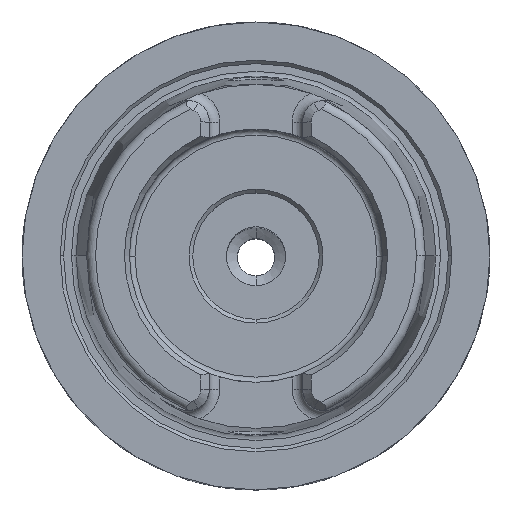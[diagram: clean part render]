
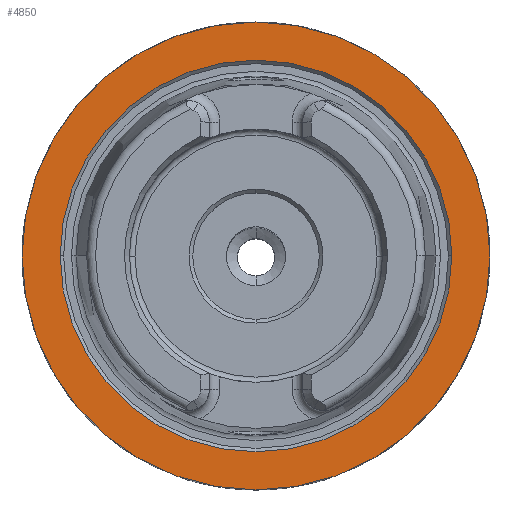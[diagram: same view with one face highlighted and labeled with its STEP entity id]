
A CAD part, top view. The second image highlights one B-rep face of the part: STEP entity #4850.
In plain terms, the highlighted planar face has unit normal (0, 0, 1).
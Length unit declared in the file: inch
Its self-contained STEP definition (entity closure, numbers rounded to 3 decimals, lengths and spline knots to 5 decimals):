
#285 = AXIS2_PLACEMENT_3D ( 'NONE', #7318, #2301, #8051 ) ;
#378 = CARTESIAN_POINT ( 'NONE',  ( 1.03689, 0., 0. ) ) ;
#708 = DIRECTION ( 'NONE',  ( -1., 0., 0. ) ) ;
#1494 = DIRECTION ( 'NONE',  ( 0., 0., -1. ) ) ;
#1519 = VERTEX_POINT ( 'NONE', #378 ) ;
#1643 = DIRECTION ( 'NONE',  ( -1., 0., 0. ) ) ;
#1789 = VERTEX_POINT ( 'NONE', #5938 ) ;
#1890 = CARTESIAN_POINT ( 'NONE',  ( 1.23898, 0., 0. ) ) ;
#2130 = FACE_BOUND ( 'NONE', #4387, .T. ) ;
#2301 = DIRECTION ( 'NONE',  ( 0., 0., 1. ) ) ;
#3119 = CIRCLE ( 'NONE', #3715, 1.23898 ) ;
#3153 = CIRCLE ( 'NONE', #4349, 1.03689 ) ;
#3471 = CARTESIAN_POINT ( 'NONE',  ( -1.23898, 0., 0. ) ) ;
#3554 = ORIENTED_EDGE ( 'NONE', *, *, #8009, .F. ) ;
#3715 = AXIS2_PLACEMENT_3D ( 'NONE', #8393, #1494, #708 ) ;
#4186 = AXIS2_PLACEMENT_3D ( 'NONE', #5498, #7746, #5628 ) ;
#4326 = CIRCLE ( 'NONE', #4186, 1.03689 ) ;
#4349 = AXIS2_PLACEMENT_3D ( 'NONE', #4440, #7956, #7220 ) ;
#4387 = EDGE_LOOP ( 'NONE', ( #3554, #8940 ) ) ;
#4440 = CARTESIAN_POINT ( 'NONE',  ( 0., 0., 0. ) ) ;
#4850 = ADVANCED_FACE ( 'NONE', ( #5031, #2130 ), #4908, .T. ) ;
#4908 = PLANE ( 'NONE',  #285 ) ;
#5031 = FACE_OUTER_BOUND ( 'NONE', #5052, .T. ) ;
#5052 = EDGE_LOOP ( 'NONE', ( #5180, #7177 ) ) ;
#5180 = ORIENTED_EDGE ( 'NONE', *, *, #7663, .F. ) ;
#5498 = CARTESIAN_POINT ( 'NONE',  ( 0., 0., 0. ) ) ;
#5628 = DIRECTION ( 'NONE',  ( 1., 0., 0. ) ) ;
#5932 = DIRECTION ( 'NONE',  ( 0., 0., -1. ) ) ;
#5938 = CARTESIAN_POINT ( 'NONE',  ( -1.03689, 0., 0. ) ) ;
#6099 = CIRCLE ( 'NONE', #7560, 1.23898 ) ;
#6616 = CARTESIAN_POINT ( 'NONE',  ( 0., 0., 0. ) ) ;
#6677 = EDGE_CURVE ( 'NONE', #1789, #1519, #3153, .T. ) ;
#7064 = VERTEX_POINT ( 'NONE', #3471 ) ;
#7177 = ORIENTED_EDGE ( 'NONE', *, *, #8416, .F. ) ;
#7220 = DIRECTION ( 'NONE',  ( 1., 0., 0. ) ) ;
#7318 = CARTESIAN_POINT ( 'NONE',  ( 0., 0.9575, 0. ) ) ;
#7560 = AXIS2_PLACEMENT_3D ( 'NONE', #6616, #5932, #1643 ) ;
#7663 = EDGE_CURVE ( 'NONE', #7064, #9028, #3119, .T. ) ;
#7746 = DIRECTION ( 'NONE',  ( 0., 0., 1. ) ) ;
#7956 = DIRECTION ( 'NONE',  ( 0., 0., 1. ) ) ;
#8009 = EDGE_CURVE ( 'NONE', #1519, #1789, #4326, .T. ) ;
#8051 = DIRECTION ( 'NONE',  ( 1., 0., 0. ) ) ;
#8393 = CARTESIAN_POINT ( 'NONE',  ( 0., 0., 0. ) ) ;
#8416 = EDGE_CURVE ( 'NONE', #9028, #7064, #6099, .T. ) ;
#8940 = ORIENTED_EDGE ( 'NONE', *, *, #6677, .F. ) ;
#9028 = VERTEX_POINT ( 'NONE', #1890 ) ;
